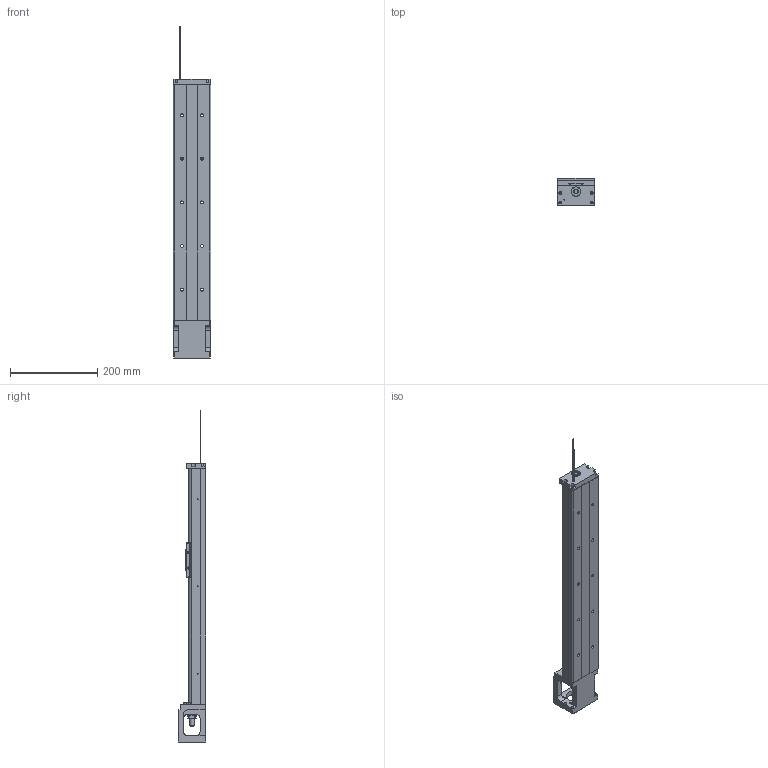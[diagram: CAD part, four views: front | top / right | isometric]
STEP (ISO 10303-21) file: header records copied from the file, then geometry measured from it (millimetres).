
FILE_DESCRIPTION(/* description */ (''),/* implementation_level */ '2;1');
FILE_NAME(/* name */ 'KP46S-540C02-D.stp',/* time_stamp */ '2020-07-03T11:58:14+08:00',/* author */ (''),/* organization */ (''),/* preprocessor_version */ 'ST-DEVELOPER v14',/* originating_system */ 'SIEMENS PLM Software NX 8.0',/* authorisation */ '');
FILE_SCHEMA (('AUTOMOTIVE_DESIGN { 1 0 10303 214 3 1 1 1 }'));
Length unit declared in the file: millimetre
Products named in the file (1): model2
Bounding box: 86 x 64 x 761.89 mm (x, y, z)
Volume: 1288869.5 mm3; surface area: 281125.5 mm2
Topology: 5 solids, 21 shells, 622 faces, 1628 edges, 1074 vertices
Faces by surface type: plane 286, cylinder 220, cone 61, bspline 47, torus 8
Full cylindrical faces by diameter (mm): 2 x2, 2.11 x2, 2.15 x6, 2.42 x6, 3 x4, 3.2 x4, 3.3 x6, 3.4 x8, 4 x2, 4.2 x4, 4.5 x8, 5 x6, 6 x8, 6.35 x2, 6.6 x10, 6.7 x2, 8.7 x4, 9.6 x1, 10 x4, 11 x10, 12 x1, 14.95 x2, 15 x1, 16 x2, 22 x3, 27.5 x1, 44 x1, 50 x1
Entity records: 31356 total; most frequent: CARTESIAN_POINT 13001, ORIENTED_EDGE 2788, DIRECTION 2732, EDGE_CURVE 1394, VERTEX_POINT 1009, AXIS2_PLACEMENT_3D 1006, EDGE_LOOP 870, LINE 720
